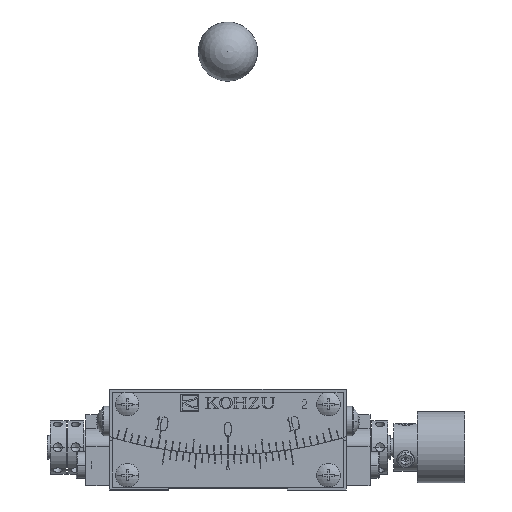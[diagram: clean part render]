
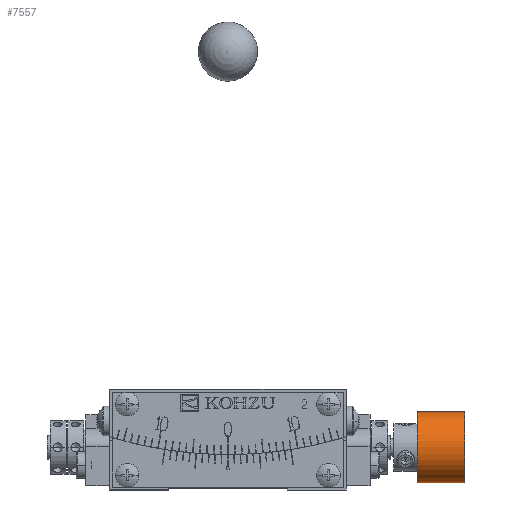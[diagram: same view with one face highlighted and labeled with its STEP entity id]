
A CAD part, front view. The second image highlights one B-rep face of the part: STEP entity #7557.
In plain terms, the highlighted cylindrical face has radius 6 mm (diameter 12 mm), a partial arc.
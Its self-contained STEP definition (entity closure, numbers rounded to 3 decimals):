
#5674 = DIRECTION ( 'NONE',  ( 0., -1., 0. ) ) ;
#5677 = FACE_OUTER_BOUND ( 'NONE', #33479, .T. ) ;
#5678 = CARTESIAN_POINT ( 'NONE',  ( 0., 43.663, 7.2 ) ) ;
#5679 = CYLINDRICAL_SURFACE ( 'NONE', #6752, 6. ) ;
#5680 = DIRECTION ( 'NONE',  ( 0., 0., 1. ) ) ;
#6752 = AXIS2_PLACEMENT_3D ( 'NONE', #5678, #5674, #5680 ) ;
#7557 = ADVANCED_FACE ( 'NONE', ( #5677 ), #5679, .T. ) ;
#12009 = EDGE_CURVE ( 'NONE', #14508, #14509, #44884, .T. ) ;
#12015 = EDGE_CURVE ( 'NONE', #14505, #14506, #44896, .T. ) ;
#14505 = VERTEX_POINT ( 'NONE', #21991 ) ;
#14506 = VERTEX_POINT ( 'NONE', #21992 ) ;
#14508 = VERTEX_POINT ( 'NONE', #21994 ) ;
#14509 = VERTEX_POINT ( 'NONE', #21995 ) ;
#21991 = CARTESIAN_POINT ( 'NONE',  ( 0., 32., 1.2 ) ) ;
#21992 = CARTESIAN_POINT ( 'NONE',  ( 0., 32., 13.2 ) ) ;
#21994 = CARTESIAN_POINT ( 'NONE',  ( 0., 40., 1.2 ) ) ;
#21995 = CARTESIAN_POINT ( 'NONE',  ( 0., 40., 13.2 ) ) ;
#22823 = LINE ( 'NONE', #22825, #27808 ) ;
#22825 = CARTESIAN_POINT ( 'NONE',  ( 0., 43.663, 1.2 ) ) ;
#22826 = DIRECTION ( 'NONE',  ( 0., -1., 0. ) ) ;
#27802 = VECTOR ( 'NONE', #53747, 1000. ) ;
#27808 = VECTOR ( 'NONE', #22826, 1000. ) ;
#30374 = ORIENTED_EDGE ( 'NONE', *, *, #39869, .F. ) ;
#30375 = ORIENTED_EDGE ( 'NONE', *, *, #12009, .T. ) ;
#30376 = ORIENTED_EDGE ( 'NONE', *, *, #39865, .T. ) ;
#30377 = ORIENTED_EDGE ( 'NONE', *, *, #12015, .F. ) ;
#33479 = EDGE_LOOP ( 'NONE', ( #30374, #30375, #30376, #30377 ) ) ;
#39865 = EDGE_CURVE ( 'NONE', #14509, #14506, #53745, .T. ) ;
#39869 = EDGE_CURVE ( 'NONE', #14508, #14505, #22823, .T. ) ;
#43134 = CARTESIAN_POINT ( 'NONE',  ( 0., 40., 7.2 ) ) ;
#43136 = DIRECTION ( 'NONE',  ( 0., -1., 0. ) ) ;
#43137 = DIRECTION ( 'NONE',  ( 0., 0., 1. ) ) ;
#43177 = CARTESIAN_POINT ( 'NONE',  ( 0., 32., 7.2 ) ) ;
#43179 = DIRECTION ( 'NONE',  ( 0., -1., 0. ) ) ;
#43181 = DIRECTION ( 'NONE',  ( 0., 0., 1. ) ) ;
#44884 = CIRCLE ( 'NONE', #44887, 6. ) ;
#44887 = AXIS2_PLACEMENT_3D ( 'NONE', #43134, #43136, #43137 ) ;
#44896 = CIRCLE ( 'NONE', #44899, 6. ) ;
#44899 = AXIS2_PLACEMENT_3D ( 'NONE', #43177, #43179, #43181 ) ;
#53745 = LINE ( 'NONE', #53746, #27802 ) ;
#53746 = CARTESIAN_POINT ( 'NONE',  ( 0., 43.663, 13.2 ) ) ;
#53747 = DIRECTION ( 'NONE',  ( 0., -1., 0. ) ) ;
